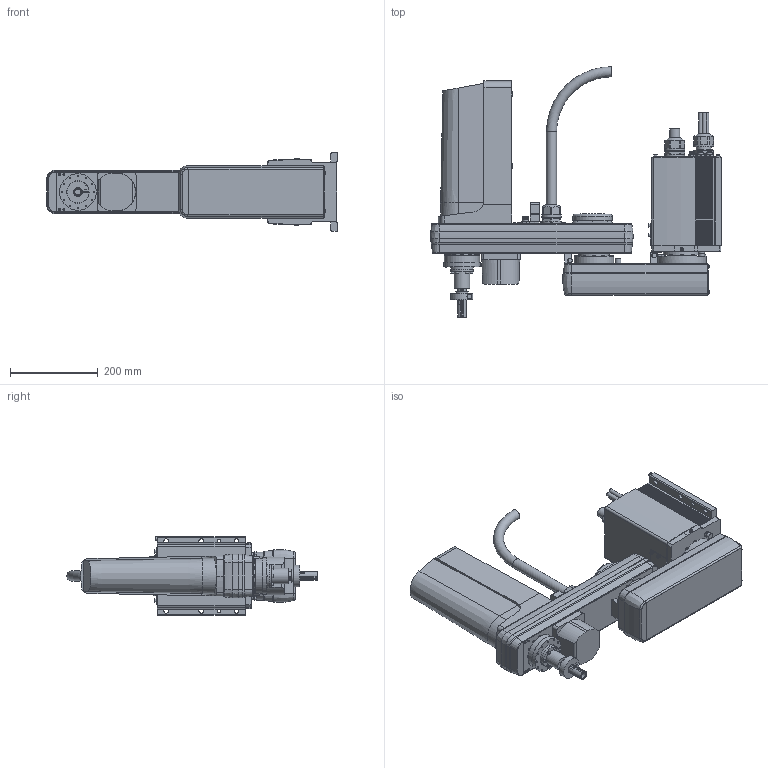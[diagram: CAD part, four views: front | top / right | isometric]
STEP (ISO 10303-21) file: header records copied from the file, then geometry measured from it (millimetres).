
FILE_DESCRIPTION( ( 'STEP AP214' ), '1' );
FILE_NAME( 'p:/temp/worker_82/3916_1576/app_57_02015071418321043936759192d056f_00_00_00_000/STEP/YK500XGS-200_2_14.stp', ' ', ( ' ' ), ( ' ' ), 'PSStep 15.0.47', 'PARTsolutions', ' ' );
FILE_SCHEMA( ( 'AUTOMOTIVE_DESIGN { 1 0 10303 214 1 1 1 1 }' ) );
Length unit declared in the file: millimetre
Products named in the file (5): YK500XGS-200; _YK500XGS-200-1; _YK500XGS-200-2; _YK500XGS-200-3; _YK500XGS-200-4
Assembly tree (4 placements, depth 2):
  YK500XGS-200
    _YK500XGS-200-1
    _YK500XGS-200-2
    _YK500XGS-200-3
    _YK500XGS-200-4
Bounding box: 660.5 x 569.5 x 178 mm (x, y, z)
Volume: 16168840.5 mm3; surface area: 863833.4 mm2
Topology: 4 solids, 4 shells, 1171 faces, 2801 edges, 1814 vertices
Faces by surface type: plane 688, cylinder 315, cone 137, torus 16, bspline 15
Full cylindrical faces by diameter (mm): 2.6 x2, 3 x12, 3.242 x4, 4 x1, 4.5 x2, 4.8 x2, 5.5 x30, 6 x6, 6.28 x1, 7 x25, 7.6 x4, 8 x3, 8.1 x4, 8.3 x4, 9.5 x4, 9.53 x4, 10 x6, 10.8 x2, 11 x7, 11.4 x4, 11.8 x2, 12.5 x4, 12.8 x4, 13 x5, 13.835 x1, 14 x1, 20 x2, 23 x2, 34 x1, 35 x3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
Entity records: 42840 total; most frequent: CARTESIAN_POINT 7046, DIRECTION 5535, ORIENTED_EDGE 5030, EDGE_CURVE 2515, AXIS2_PLACEMENT_3D 2068, VERTEX_POINT 1739, EDGE_LOOP 1601, LINE 1399
